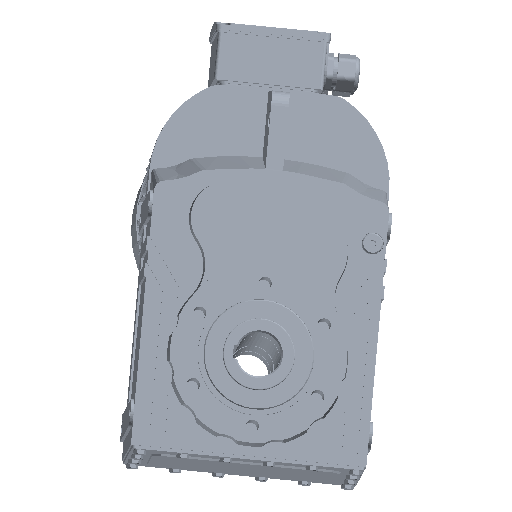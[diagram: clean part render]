
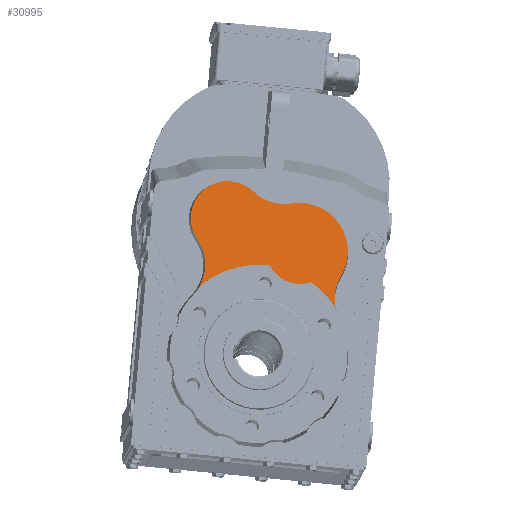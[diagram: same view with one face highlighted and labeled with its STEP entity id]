
A CAD part, top view. The second image highlights one B-rep face of the part: STEP entity #30995.
In plain terms, the highlighted planar face has unit normal (0.061, 0.109, 0.992) as drawn and (0, 0, 1) by its records, which use the part's own axes.
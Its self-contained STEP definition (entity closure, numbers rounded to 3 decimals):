
#5219 = FACE_OUTER_BOUND ( 'NONE', #57449, .T. ) ;
#30995 = ADVANCED_FACE ( 'NONE', ( #5219 ), #220187, .T. ) ;
#39671 = CIRCLE ( 'NONE', #177984, 81.925 ) ;
#39679 = CIRCLE ( 'NONE', #177877, 81.925 ) ;
#39687 = CIRCLE ( 'NONE', #177926, 39.519 ) ;
#39716 = CIRCLE ( 'NONE', #178051, 39.519 ) ;
#40017 = CIRCLE ( 'NONE', #177966, 33.481 ) ;
#40165 = CIRCLE ( 'NONE', #177989, 43.481 ) ;
#42352 = CIRCLE ( 'NONE', #177818, 39.519 ) ;
#42767 = CIRCLE ( 'NONE', #178020, 30.5 ) ;
#43245 = CARTESIAN_POINT ( 'NONE',  ( 7.331, 178.119, 170.5 ) ) ;
#43267 = DIRECTION ( 'NONE',  ( 0., -1., 0. ) ) ;
#43277 = DIRECTION ( 'NONE',  ( 0., 0., -1. ) ) ;
#47000 = DIRECTION ( 'NONE',  ( 1., 0., 0. ) ) ;
#47019 = CARTESIAN_POINT ( 'NONE',  ( 103.143, 61.331, 170.5 ) ) ;
#47029 = DIRECTION ( 'NONE',  ( 1., 0., 0. ) ) ;
#47048 = CARTESIAN_POINT ( 'NONE',  ( -94.281, 74.237, 170.5 ) ) ;
#47052 = DIRECTION ( 'NONE',  ( 0., 0., -1. ) ) ;
#47057 = DIRECTION ( 'NONE',  ( 0., 0., -1. ) ) ;
#47103 = CARTESIAN_POINT ( 'NONE',  ( 0., 0., 170.5 ) ) ;
#47156 = DIRECTION ( 'NONE',  ( 0., 0., 1. ) ) ;
#47183 = DIRECTION ( 'NONE',  ( 0., 1., 0. ) ) ;
#47634 = CARTESIAN_POINT ( 'NONE',  ( 0., 0., 170.5 ) ) ;
#47636 = DIRECTION ( 'NONE',  ( 0., 0., 1. ) ) ;
#47638 = DIRECTION ( 'NONE',  ( 0., 1., 0. ) ) ;
#47820 = CARTESIAN_POINT ( 'NONE',  ( 28.633, 97.899, 170.5 ) ) ;
#47827 = DIRECTION ( 'NONE',  ( 0., 0., 1. ) ) ;
#47879 = DIRECTION ( 'NONE',  ( 0., 0., 1. ) ) ;
#47880 = DIRECTION ( 'NONE',  ( -1., 0., 0. ) ) ;
#47903 = DIRECTION ( 'NONE',  ( -1., 0., 0. ) ) ;
#47926 = CARTESIAN_POINT ( 'NONE',  ( -38.422, 121.236, 170.5 ) ) ;
#49197 = CARTESIAN_POINT ( 'NONE',  ( 28.633, 97.899, 170.5 ) ) ;
#49199 = DIRECTION ( 'NONE',  ( -1., 0., 0. ) ) ;
#49236 = DIRECTION ( 'NONE',  ( 0., 0., 1. ) ) ;
#57449 = EDGE_LOOP ( 'NONE', ( #78341, #78364, #78354, #78311, #78286, #78413, #78379, #78292, #78315, #78329, #78361, #78348 ) ) ;
#62365 = CIRCLE ( 'NONE', #158357, 81.925 ) ;
#62453 = CIRCLE ( 'NONE', #158402, 39.519 ) ;
#62605 = CIRCLE ( 'NONE', #158409, 39.519 ) ;
#62827 = CIRCLE ( 'NONE', #159402, 33.481 ) ;
#76474 = DIRECTION ( 'NONE',  ( 0., 0., -1. ) ) ;
#76502 = CARTESIAN_POINT ( 'NONE',  ( -94.281, 74.237, 170.5 ) ) ;
#76525 = DIRECTION ( 'NONE',  ( 1., 0., 0. ) ) ;
#77316 = DIRECTION ( 'NONE',  ( 0., 1., 0. ) ) ;
#77328 = DIRECTION ( 'NONE',  ( 0., 0., 1. ) ) ;
#77336 = CARTESIAN_POINT ( 'NONE',  ( 0., 0., 170.5 ) ) ;
#78137 = DIRECTION ( 'NONE',  ( 0., 0., 1. ) ) ;
#78149 = CARTESIAN_POINT ( 'NONE',  ( -38.422, 121.236, 170.5 ) ) ;
#78152 = DIRECTION ( 'NONE',  ( -1., 0., 0. ) ) ;
#78286 = ORIENTED_EDGE ( 'NONE', *, *, #91468, .T. ) ;
#78292 = ORIENTED_EDGE ( 'NONE', *, *, #92083, .T. ) ;
#78311 = ORIENTED_EDGE ( 'NONE', *, *, #91970, .F. ) ;
#78315 = ORIENTED_EDGE ( 'NONE', *, *, #218715, .T. ) ;
#78329 = ORIENTED_EDGE ( 'NONE', *, *, #90926, .T. ) ;
#78341 = ORIENTED_EDGE ( 'NONE', *, *, #218587, .T. ) ;
#78348 = ORIENTED_EDGE ( 'NONE', *, *, #218839, .T. ) ;
#78354 = ORIENTED_EDGE ( 'NONE', *, *, #218673, .F. ) ;
#78361 = ORIENTED_EDGE ( 'NONE', *, *, #92074, .T. ) ;
#78364 = ORIENTED_EDGE ( 'NONE', *, *, #91692, .T. ) ;
#78379 = ORIENTED_EDGE ( 'NONE', *, *, #91704, .T. ) ;
#78413 = ORIENTED_EDGE ( 'NONE', *, *, #91784, .F. ) ;
#78789 = DIRECTION ( 'NONE',  ( 0., 0., -1. ) ) ;
#78793 = DIRECTION ( 'NONE',  ( 0., -1., 0. ) ) ;
#78810 = CARTESIAN_POINT ( 'NONE',  ( 7.331, 178.119, 170.5 ) ) ;
#90926 = EDGE_CURVE ( 'NONE', #216553, #215938, #42352, .T. ) ;
#91468 = EDGE_CURVE ( 'NONE', #184878, #184883, #42767, .T. ) ;
#91692 = EDGE_CURVE ( 'NONE', #216462, #216613, #39687, .T. ) ;
#91704 = EDGE_CURVE ( 'NONE', #184881, #184894, #39716, .T. ) ;
#91784 = EDGE_CURVE ( 'NONE', #184881, #184883, #39671, .T. ) ;
#91970 = EDGE_CURVE ( 'NONE', #184878, #216452, #39679, .T. ) ;
#92074 = EDGE_CURVE ( 'NONE', #215938, #216532, #40017, .T. ) ;
#92083 = EDGE_CURVE ( 'NONE', #184894, #216599, #40165, .T. ) ;
#145755 = CARTESIAN_POINT ( 'NONE',  ( -17.438, 147.325, 170.5 ) ) ;
#148941 = CARTESIAN_POINT ( 'NONE',  ( 67.666, 78.742, 170.5 ) ) ;
#148989 = CARTESIAN_POINT ( 'NONE',  ( 2.677, 81.881, 170.5 ) ) ;
#148997 = CARTESIAN_POINT ( 'NONE',  ( 41.866, 70.419, 170.5 ) ) ;
#149054 = CARTESIAN_POINT ( 'NONE',  ( 65.552, 49.138, 170.5 ) ) ;
#150851 = CARTESIAN_POINT ( 'NONE',  ( 0., 81.925, 170.5 ) ) ;
#150874 = CARTESIAN_POINT ( 'NONE',  ( -54.762, 74.237, 170.5 ) ) ;
#158357 = AXIS2_PLACEMENT_3D ( 'NONE', #77336, #77328, #77316 ) ;
#158402 = AXIS2_PLACEMENT_3D ( 'NONE', #76502, #76474, #76525 ) ;
#158409 = AXIS2_PLACEMENT_3D ( 'NONE', #78810, #78789, #78793 ) ;
#159402 = AXIS2_PLACEMENT_3D ( 'NONE', #78149, #78137, #78152 ) ;
#169626 = CARTESIAN_POINT ( 'NONE',  ( -64.041, 99.68, 170.5 ) ) ;
#169801 = CARTESIAN_POINT ( 'NONE',  ( -71.903, 121.236, 170.5 ) ) ;
#170157 = CARTESIAN_POINT ( 'NONE',  ( 7.331, 138.6, 170.5 ) ) ;
#170377 = CARTESIAN_POINT ( 'NONE',  ( 17.473, 139.924, 170.5 ) ) ;
#170645 = CARTESIAN_POINT ( 'NONE',  ( -58.597, 57.254, 170.5 ) ) ;
#177818 = AXIS2_PLACEMENT_3D ( 'NONE', #43245, #43277, #43267 ) ;
#177877 = AXIS2_PLACEMENT_3D ( 'NONE', #47634, #47636, #47638 ) ;
#177926 = AXIS2_PLACEMENT_3D ( 'NONE', #47048, #47052, #47000 ) ;
#177966 = AXIS2_PLACEMENT_3D ( 'NONE', #47926, #47879, #47903 ) ;
#177984 = AXIS2_PLACEMENT_3D ( 'NONE', #47103, #47156, #47183 ) ;
#177989 = AXIS2_PLACEMENT_3D ( 'NONE', #47820, #47827, #47880 ) ;
#178020 = AXIS2_PLACEMENT_3D ( 'NONE', #49197, #49236, #49199 ) ;
#178051 = AXIS2_PLACEMENT_3D ( 'NONE', #47019, #47057, #47029 ) ;
#180951 = AXIS2_PLACEMENT_3D ( 'NONE', #220191, #220201, #220238 ) ;
#184878 = VERTEX_POINT ( 'NONE', #148989 ) ;
#184881 = VERTEX_POINT ( 'NONE', #149054 ) ;
#184883 = VERTEX_POINT ( 'NONE', #148997 ) ;
#184894 = VERTEX_POINT ( 'NONE', #148941 ) ;
#215938 = VERTEX_POINT ( 'NONE', #145755 ) ;
#216452 = VERTEX_POINT ( 'NONE', #150851 ) ;
#216462 = VERTEX_POINT ( 'NONE', #150874 ) ;
#216505 = VERTEX_POINT ( 'NONE', #169626 ) ;
#216532 = VERTEX_POINT ( 'NONE', #169801 ) ;
#216553 = VERTEX_POINT ( 'NONE', #170157 ) ;
#216599 = VERTEX_POINT ( 'NONE', #170377 ) ;
#216613 = VERTEX_POINT ( 'NONE', #170645 ) ;
#218587 = EDGE_CURVE ( 'NONE', #216505, #216462, #62453, .T. ) ;
#218673 = EDGE_CURVE ( 'NONE', #216452, #216613, #62365, .T. ) ;
#218715 = EDGE_CURVE ( 'NONE', #216599, #216553, #62605, .T. ) ;
#218839 = EDGE_CURVE ( 'NONE', #216532, #216505, #62827, .T. ) ;
#220187 = PLANE ( 'NONE',  #180951 ) ;
#220191 = CARTESIAN_POINT ( 'NONE',  ( 17.982, 138.009, 170.5 ) ) ;
#220201 = DIRECTION ( 'NONE',  ( 0., 0., 1. ) ) ;
#220238 = DIRECTION ( 'NONE',  ( 1., 0., 0. ) ) ;
